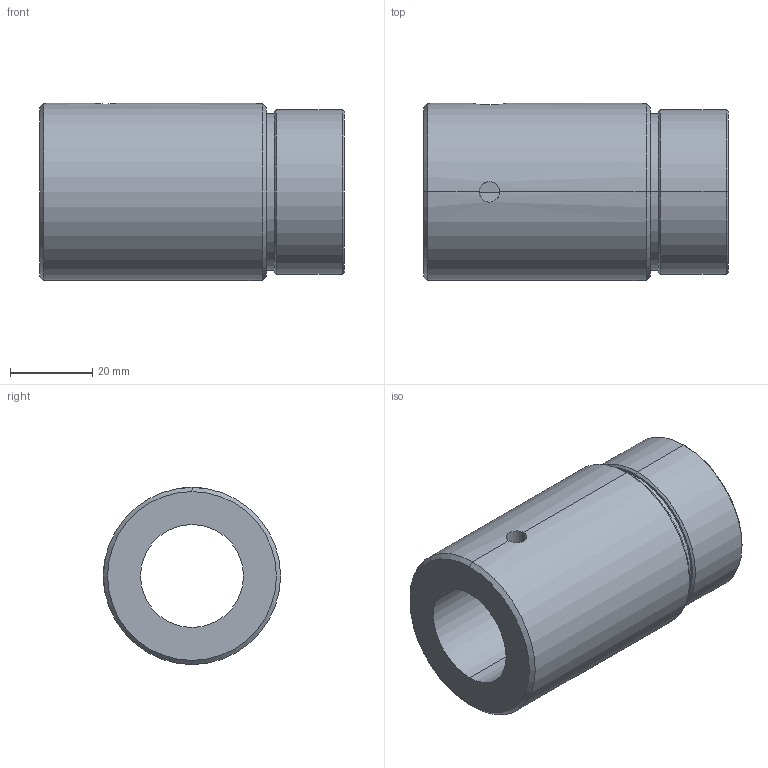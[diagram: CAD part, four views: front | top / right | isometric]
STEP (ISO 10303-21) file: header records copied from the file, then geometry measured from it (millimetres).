
FILE_DESCRIPTION (( 'STEP AP214' ), '1' );
FILE_NAME ('KGM-E-2510-RH.STEP', '2021-03-19T01:38:31', ( 'user' ), ( 'datathink' ), 'SwSTEP 2.0', 'SolidWorks 2013', '' );
FILE_SCHEMA (( 'AUTOMOTIVE_DESIGN' ));
Length unit declared in the file: millimetre
Products named in the file (1): KGM-E-2510-RH
Bounding box: 74 x 43 x 43 mm (x, y, z)
Volume: 66689.8 mm3; surface area: 17722.7 mm2
Topology: 1 solids, 1 shells, 25 faces, 54 edges, 32 vertices
Faces by surface type: cylinder 12, cone 8, plane 5
Entity records: 896 total; most frequent: CARTESIAN_POINT 300, DIRECTION 126, ORIENTED_EDGE 108, EDGE_CURVE 54, AXIS2_PLACEMENT_3D 52, VERTEX_POINT 32, EDGE_LOOP 30, CIRCLE 26
